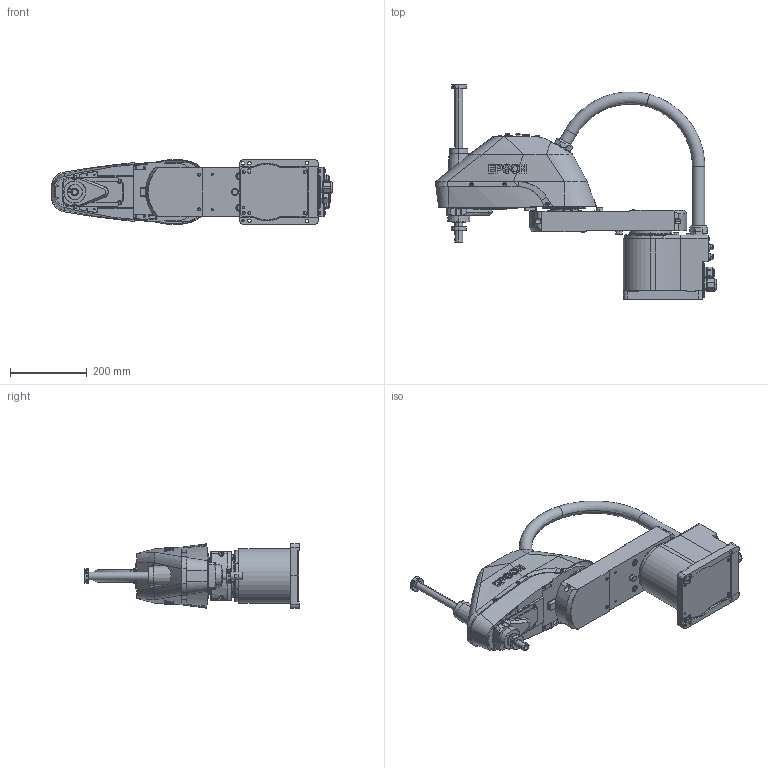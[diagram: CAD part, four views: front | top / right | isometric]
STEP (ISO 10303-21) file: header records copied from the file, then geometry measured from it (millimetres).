
FILE_DESCRIPTION (( 'STEP AP214' ), '1' );
FILE_NAME ('LS8-x502S.STEP', '2026-07-16T17:06:39', ( '' ), ( '' ), 'SwSTEP 2.0', 'SolidWorks 2020', '' );
FILE_SCHEMA (( 'AUTOMOTIVE_DESIGN' ));
Length unit declared in the file: millimetre
Products named in the file (5): LS8-CX02X_500__ARM1_1; LS8-CX02S_BOX_; LS8-x502S; LS8-CX02S_Z_AXIS; LS8-CX02S_500__HOUSING
Assembly tree (4 placements, depth 2):
  LS8-x502S
    LS8-CX02S_BOX_
    LS8-CX02X_500__ARM1_1
    LS8-CX02S_500__HOUSING
    LS8-CX02S_Z_AXIS
Bounding box: 733.25 x 559 x 169 mm (x, y, z)
Volume: 7405308.9 mm3; surface area: 807961.7 mm2
Topology: 3 solids, 4 shells, 2491 faces, 6348 edges, 4114 vertices
Faces by surface type: cylinder 1059, plane 959, cone 244, torus 108, bspline 61, sphere 60
Entity records: 107968 total; most frequent: CARTESIAN_POINT 43366, ORIENTED_EDGE 12658, DIRECTION 8693, EDGE_CURVE 6331, VERTEX_POINT 4114, B_SPLINE_CURVE_WITH_KNOTS 3730, AXIS2_PLACEMENT_3D 3663, EDGE_LOOP 2792
